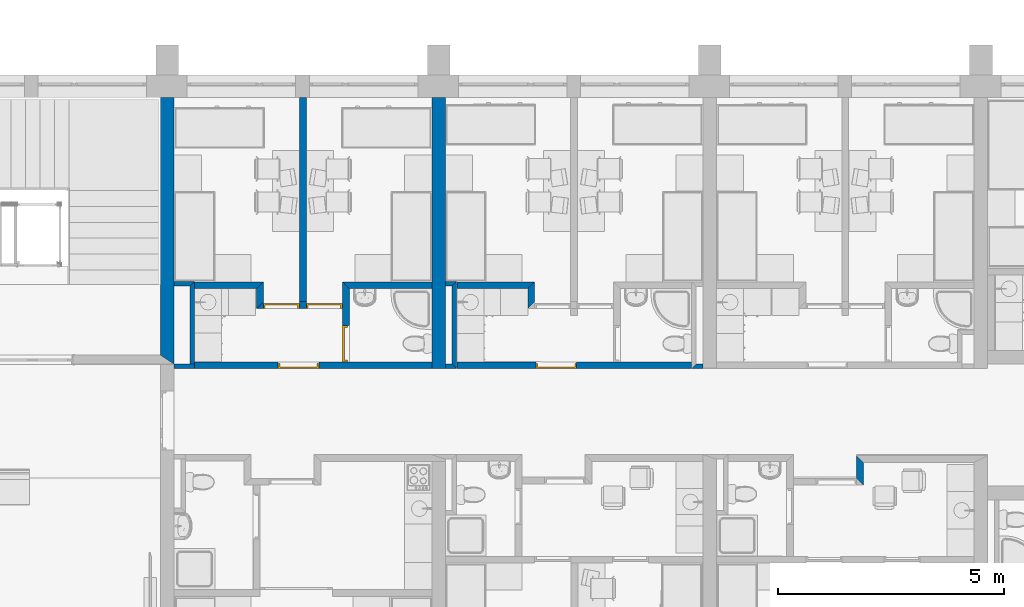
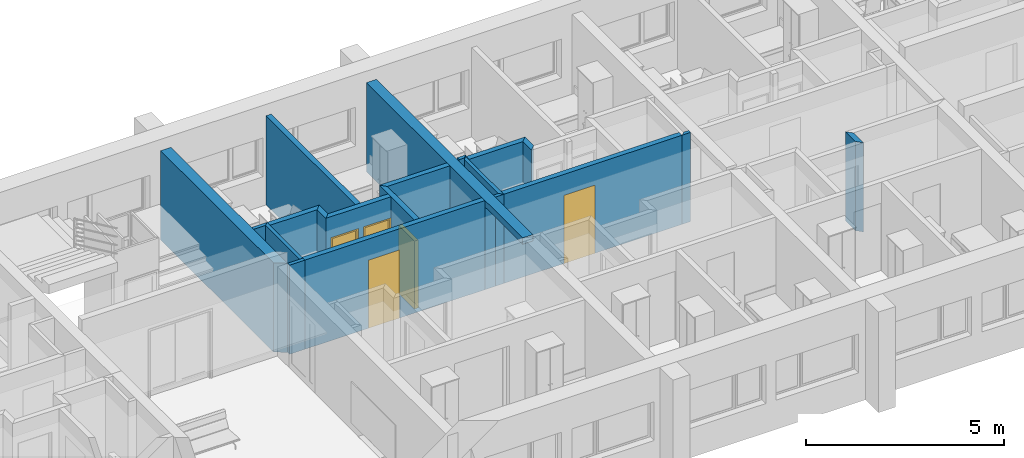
# One storey, part 16 of 172: 20 walls, 5 doors, 6 openings.
"""IFC2X3 building model written with IfcOpenShell, lengths in millimetres."""

from ifc_helpers import new_model, entity, si_unit, converted_unit, money_unit, direction, frame, origin_with_axes, place, context, subcontext, project, spatial, polyline, outline, extrude, faceted_brep, source, transform, mapped, material, material_list, layer, layer_set, layer_usage, type_object, element, fill, save


model = new_model("IFC2X3")

# Units and contexts
model_context = context("Model", 3, precision=1e-05, world=origin_with_axes(), true_north=direction((0.0, 1.0)))
body_context = subcontext(model_context, "Body", "Model", "MODEL_VIEW")
ifc_project = project(units=[si_unit("LENGTHUNIT", "METRE", prefix="MILLI"), si_unit("AREAUNIT", "SQUARE_METRE"), si_unit("VOLUMEUNIT", "CUBIC_METRE"), converted_unit("PLANEANGLEUNIT", "DEGREE", entity("IfcPlaneAngleMeasure", 0.0174532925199), si_unit("PLANEANGLEUNIT", "RADIAN"), dimensions=[0, 0, 0, 0, 0, 0, 0]), si_unit("SOLIDANGLEUNIT", "STERADIAN"), money_unit("USD"), converted_unit("TIMEUNIT", "Year", entity("IfcTimeMeasure", 31556926.0), si_unit("TIMEUNIT", "SECOND"), dimensions=[0, 0, 0, 0, 0, 0, 0]), si_unit("MASSUNIT", "GRAM"), si_unit("THERMODYNAMICTEMPERATUREUNIT", "DEGREE_CELSIUS"), si_unit("LUMINOUSINTENSITYUNIT", "LUMEN")], contexts=[model_context])

# Site, building, storey
site_placement = place(None, origin_with_axes())
site = spatial("IfcSite", under=ifc_project, at=site_placement, Name="Site", CompositionType="ELEMENT")
building_placement = place(site_placement, origin_with_axes())
building = spatial("IfcBuilding", under=site, at=building_placement, Name="Building", CompositionType="ELEMENT")
storey_placement = place(building_placement, frame((0.0, 0.0, 3200.0), z_axis=(0.0, 0.0, 1.0), x_axis=(1.0, 0.0, 0.0)))
storey = spatial("IfcBuildingStorey", under=building, at=storey_placement, Name="3KORRUS", CompositionType="ELEMENT", Elevation=3200.0)

# Wall
ifc_material_1 = material(Name="UmbKipsplaat")
ifc_layer_1 = layer(ifc_material_1, 13.0, ventilated="UNKNOWN")
ifc_layer_2 = layer(ifc_material_1, 13.0, ventilated="UNKNOWN")
ifc_material_2 = material(Name="SOOJUSTUS MINERAALVILL")
ifc_layer_3 = layer(ifc_material_2, 98.0, ventilated="UNKNOWN")
ifc_layer_4 = layer(ifc_material_1, 13.0, ventilated="UNKNOWN")
ifc_layer_5 = layer(ifc_material_1, 13.0, ventilated="UNKNOWN")
ifc_layer_set_1 = layer_set([ifc_layer_1, ifc_layer_2, ifc_layer_3, ifc_layer_4, ifc_layer_5], Name="kipssein150")
ifc_layer_usage_1 = layer_usage(ifc_layer_set_1, "AXIS2", "POSITIVE", -150.0)
wall_type_1 = type_object("IfcWallType", Name="kipssein150 150", PredefinedType="NOTDEFINED")
wall_1_placement = place(storey_placement, frame((9259.55735712, -13063.2398994, 0.0), z_axis=(0.0, 0.0, 1.0), x_axis=(0.0, -1.0, 0.0)))
element("IfcWallStandardCase", 1, at=wall_1_placement, inside=storey, type_object=wall_type_1, material=ifc_layer_usage_1, Name="SS1", ObjectType="SS1", context=body_context, shape_type="SweptSolid", body=[
    extrude(outline(polyline([(0.0, -150.0), (500.2125089, -150.0), (650.2125089, 0.0), (150.0, 0.0), (0.0, -150.0)])), origin_with_axes(), (0.0, 0.0, 1.0), 2750.0),
])

# Wall, opening, door
ifc_layer_usage_2 = layer_usage(ifc_layer_set_1, "AXIS2", "POSITIVE", 0.0)
wall_2_placement = place(storey_placement, frame((266.697734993, -11136.6041088, 0.0), z_axis=(0.0, 0.0, 1.0), x_axis=(1.0, 0.0, 0.0)))
wall_2 = element("IfcWallStandardCase", 2, at=wall_2_placement, inside=storey, type_object=wall_type_1, material=ifc_layer_usage_2, Name="SS1", ObjectType="SS1", context=body_context, shape_type="SweptSolid", body=[
    extrude(outline(polyline([(0.0, 0.0), (5193.00556169, 0.0), (5193.00556169, 150.0), (0.0, 150.0), (0.0, 0.0)])), origin_with_axes(), (0.0, 0.0, 1.0), 2750.0),
])
opening_1_placement = place(wall_2_placement, frame((2196.5587421, 0.0, 0.0), z_axis=(0.0, 0.0, 1.0), x_axis=(1.0, 0.0, 0.0)))
opening_1 = element("IfcOpeningElement", 3, at=opening_1_placement, cuts=wall_2, Name="SU2-6", context=body_context, shape_type="SweptSolid", body=[
    extrude(outline(polyline([(-450.0, -2100.0), (450.0, -2100.0), (450.0, 0.0), (-450.0, 0.0), (-450.0, -2100.0)])), frame((0.0, 150.0, 0.0), z_axis=(0.0, 1.0, 0.0), x_axis=(1.0, 0.0, 0.0)), (0.0, 0.0, -1.0), 450.0),
])
ifc_material_3 = material(Name="Background")
ifc_material_list = material_list([ifc_material_3])
door_style_1 = type_object("IfcDoorStyle", Name="Door 19", ConstructionType="NOTDEFINED", OperationType="SINGLE_SWING_LEFT", ParameterTakesPrecedence=False, Sizeable=False)
shared_shape_1 = source(origin_with_axes(), body_context, "Body", "Brep", [
    faceted_brep([(410.0, -40.0, 0.0), (410.0, -115.0, 0.0), (410.0, -115.0, 2060.0), (410.0, -40.0, 2060.0), (422.0, -40.0, 0.0), (422.0, 0.0, 0.0), (450.0, 0.0, 0.0), (450.0, -115.0, 0.0), (450.0, -115.0, 2060.0), (422.0, -40.0, 2060.0), (450.0, 0.0, 2060.0), (422.0, 0.0, 2060.0)], [[[0, 1, 2, 3]], [[4, 5, 6, 7, 1, 0]], [[2, 1, 7, 8]], [[9, 3, 2, 8, 10, 11]], [[9, 4, 0, 3]], [[11, 5, 4, 9]], [[11, 10, 6, 5]], [[7, 6, 10, 8]]]),
    faceted_brep([(-422.0, -40.0, 2060.0), (-422.0, 0.0, 2060.0), (-450.0, 0.0, 2060.0), (-450.0, -115.0, 2060.0), (-410.0, -115.0, 2060.0), (-410.0, -40.0, 2060.0), (-422.0, -40.0, 0.0), (-422.0, 0.0, 0.0), (-450.0, 0.0, 0.0), (-450.0, -115.0, 0.0), (-410.0, -115.0, 0.0), (-410.0, -40.0, 0.0)], [[[0, 1, 2, 3, 4, 5]], [[0, 6, 7, 1]], [[7, 8, 2, 1]], [[3, 2, 8, 9]], [[4, 3, 9, 10]], [[5, 4, 10, 11]], [[5, 11, 6, 0]], [[6, 11, 10, 9, 8, 7]]]),
    faceted_brep([(422.0, 0.0, 2072.0), (-422.0, 0.0, 2072.0), (-422.0, 0.0, 2060.0), (-450.0, 0.0, 2060.0), (-450.0, 0.0, 2100.0), (450.0, 0.0, 2100.0), (450.0, 0.0, 2060.0), (422.0, 0.0, 2060.0), (422.0, -40.0, 2072.0), (-422.0, -40.0, 2072.0), (-422.0, -40.0, 2060.0), (-410.0, -40.0, 2060.0), (-410.0, -115.0, 2060.0), (-450.0, -115.0, 2060.0), (-450.0, -115.0, 2100.0), (450.0, -115.0, 2100.0), (450.0, -115.0, 2060.0), (422.0, -40.0, 2060.0), (410.0, -115.0, 2060.0), (410.0, -40.0, 2060.0)], [[[0, 1, 2, 3, 4, 5, 6, 7]], [[0, 8, 9, 1]], [[1, 9, 10, 2]], [[10, 11, 12, 13, 3, 2]], [[14, 4, 3, 13]], [[15, 5, 4, 14]], [[16, 6, 5, 15]], [[17, 7, 6, 16, 18, 19]], [[7, 17, 8, 0]], [[10, 9, 8, 17, 19, 11]], [[19, 18, 12, 11]], [[13, 12, 18, 16, 15, 14]]]),
    faceted_brep([(-422.0, 0.0, 0.0), (422.0, 0.0, 0.0), (422.0, -40.0, 0.0), (-422.0, -40.0, 0.0), (-422.0, 0.0, 2072.0), (422.0, 0.0, 2072.0), (422.0, -40.0, 2072.0), (-422.0, -40.0, 2072.0)], [[[0, 1, 2, 3]], [[0, 4, 5, 1]], [[1, 5, 6, 2]], [[3, 2, 6, 7]], [[4, 0, 3, 7]], [[5, 4, 7, 6]]]),
])
door_1_placement = place(opening_1_placement, frame((450.0, 0.0, 0.0), z_axis=(0.0, 0.0, 1.0), x_axis=(-1.0, 0.0, 0.0)))
door_1 = element("IfcDoor", 4, at=door_1_placement, inside=storey, type_object=door_style_1, material=ifc_material_list, Name="SU2-6", ObjectType="Korteri välisuks", OverallHeight=2100.0, OverallWidth=900.0, context=body_context, shape_type="MappedRepresentation", body=[
    mapped(shared_shape_1, transform((450.0, 0.0, 0.0))),
])
fill(opening_1, door_1)

# Walls
ifc_layer_usage_3 = layer_usage(ifc_layer_set_1, "AXIS2", "POSITIVE", -150.0)
wall_3_placement = place(storey_placement, frame((1984.2564771, -9366.37850445, 0.0), z_axis=(0.0, 0.0, 1.0), x_axis=(0.0, -1.0, 0.0)))
element("IfcWallStandardCase", 5, at=wall_3_placement, inside=storey, type_object=wall_type_1, material=ifc_layer_usage_3, Name="SS1", ObjectType="SS1", context=body_context, shape_type="SweptSolid", body=[
    extrude(outline(polyline([(0.0, -150.0), (440.51563414, -150.0), (290.51563414, 0.0), (-150.0, 0.0), (0.0, -150.0)])), origin_with_axes(), (0.0, 0.0, 1.0), 2750.0),
])
ifc_layer_usage_4 = layer_usage(ifc_layer_set_1, "AXIS2", "POSITIVE", -150.0)
wall_4_placement = place(storey_placement, frame((1984.2564771, -9366.37850445, 0.0), z_axis=(0.0, 0.0, 1.0), x_axis=(-1.0, 0.0, 0.0)))
element("IfcWallStandardCase", 6, at=wall_4_placement, inside=storey, type_object=wall_type_1, material=ifc_layer_usage_4, Name="SS1", ObjectType="SS1", context=body_context, shape_type="SweptSolid", body=[
    extrude(outline(polyline([(0.0, -150.0), (1717.5587421, -150.0), (1717.5587421, 0.0), (150.0, 0.0), (0.0, -150.0)])), origin_with_axes(), (0.0, 0.0, 1.0), 2750.0),
])

# Wall, opening, door
ifc_layer_usage_5 = layer_usage(ifc_layer_set_1, "AXIS2", "POSITIVE", 0.0)
wall_5_placement = place(storey_placement, frame((-2265.29670331, -9367.37850445, 0.0), z_axis=(0.0, 0.0, 1.0), x_axis=(0.0, -1.0, 0.0)))
wall_5 = element("IfcWallStandardCase", 7, at=wall_5_placement, inside=storey, type_object=wall_type_1, material=ifc_layer_usage_5, Name="SS1", ObjectType="SS1", context=body_context, shape_type="SweptSolid", body=[
    extrude(outline(polyline([(-150.0, 0.0), (1619.22560435, 0.0), (1619.22560435, 150.0), (0.0, 150.0), (-150.0, 0.0)])), origin_with_axes(), (0.0, 0.0, 1.0), 2750.0),
])
opening_2_placement = place(wall_5_placement, frame((1219.22560435, 0.0, 0.0), z_axis=(0.0, 0.0, 1.0), x_axis=(1.0, 0.0, 0.0)))
opening_2 = element("IfcOpeningElement", 8, at=opening_2_placement, cuts=wall_5, Name="SU3-3", context=body_context, shape_type="SweptSolid", body=[
    extrude(outline(polyline([(-400.0, -2100.0), (400.0, -2100.0), (400.0, 0.0), (-400.0, 0.0), (-400.0, -2100.0)])), frame((0.0, 150.0, 0.0), z_axis=(0.0, 1.0, 0.0), x_axis=(1.0, 0.0, 0.0)), (0.0, 0.0, -1.0), 450.0),
])
shared_shape_2 = source(origin_with_axes(), body_context, "Body", "Brep", [
    faceted_brep([(360.0, -40.0, 0.0), (360.0, -115.0, 0.0), (360.0, -115.0, 2060.0), (360.0, -40.0, 2060.0), (372.0, -40.0, 0.0), (372.0, 0.0, 0.0), (400.0, 0.0, 0.0), (400.0, -115.0, 0.0), (400.0, -115.0, 2060.0), (372.0, -40.0, 2060.0), (400.0, 0.0, 2060.0), (372.0, 0.0, 2060.0)], [[[0, 1, 2, 3]], [[4, 5, 6, 7, 1, 0]], [[2, 1, 7, 8]], [[9, 3, 2, 8, 10, 11]], [[9, 4, 0, 3]], [[11, 5, 4, 9]], [[11, 10, 6, 5]], [[7, 6, 10, 8]]]),
    faceted_brep([(-372.0, -40.0, 2060.0), (-372.0, 0.0, 2060.0), (-400.0, 0.0, 2060.0), (-400.0, -115.0, 2060.0), (-360.0, -115.0, 2060.0), (-360.0, -40.0, 2060.0), (-372.0, -40.0, 0.0), (-372.0, 0.0, 0.0), (-400.0, 0.0, 0.0), (-400.0, -115.0, 0.0), (-360.0, -115.0, 0.0), (-360.0, -40.0, 0.0)], [[[0, 1, 2, 3, 4, 5]], [[0, 6, 7, 1]], [[7, 8, 2, 1]], [[3, 2, 8, 9]], [[4, 3, 9, 10]], [[5, 4, 10, 11]], [[5, 11, 6, 0]], [[6, 11, 10, 9, 8, 7]]]),
    faceted_brep([(372.0, 0.0, 2072.0), (-372.0, 0.0, 2072.0), (-372.0, 0.0, 2060.0), (-400.0, 0.0, 2060.0), (-400.0, 0.0, 2100.0), (400.0, 0.0, 2100.0), (400.0, 0.0, 2060.0), (372.0, 0.0, 2060.0), (372.0, -40.0, 2072.0), (-372.0, -40.0, 2072.0), (-372.0, -40.0, 2060.0), (-360.0, -40.0, 2060.0), (-360.0, -115.0, 2060.0), (-400.0, -115.0, 2060.0), (-400.0, -115.0, 2100.0), (400.0, -115.0, 2100.0), (400.0, -115.0, 2060.0), (372.0, -40.0, 2060.0), (360.0, -115.0, 2060.0), (360.0, -40.0, 2060.0)], [[[0, 1, 2, 3, 4, 5, 6, 7]], [[0, 8, 9, 1]], [[1, 9, 10, 2]], [[10, 11, 12, 13, 3, 2]], [[14, 4, 3, 13]], [[15, 5, 4, 14]], [[16, 6, 5, 15]], [[17, 7, 6, 16, 18, 19]], [[7, 17, 8, 0]], [[10, 9, 8, 17, 19, 11]], [[19, 18, 12, 11]], [[13, 12, 18, 16, 15, 14]]]),
    faceted_brep([(-372.0, 0.0, 0.0), (372.0, 0.0, 0.0), (372.0, -40.0, 0.0), (-372.0, -40.0, 0.0), (-372.0, 0.0, 2072.0), (372.0, 0.0, 2072.0), (372.0, -40.0, 2072.0), (-372.0, -40.0, 2072.0)], [[[0, 1, 2, 3]], [[0, 4, 5, 1]], [[1, 5, 6, 2]], [[3, 2, 6, 7]], [[4, 0, 3, 7]], [[5, 4, 7, 6]]]),
])
door_2_placement = place(opening_2_placement, frame((400.0, 0.0, 0.0), z_axis=(0.0, 0.0, 1.0), x_axis=(-1.0, 0.0, 0.0)))
door_2 = element("IfcDoor", 9, at=door_2_placement, inside=storey, type_object=door_style_1, material=ifc_material_list, Name="SU3-3", ObjectType="WC-uks", OverallHeight=2100.0, OverallWidth=800.0, context=body_context, shape_type="MappedRepresentation", body=[
    mapped(shared_shape_2, transform((400.0, 0.0, 0.0))),
])
fill(opening_2, door_2)

# Wall, openings, doors
ifc_layer_usage_6 = layer_usage(ifc_layer_set_1, "AXIS2", "POSITIVE", 0.0)
wall_6_placement = place(storey_placement, frame((-4015.7435229, -9806.89413859, 0.0), z_axis=(0.0, 0.0, 1.0), x_axis=(1.0, 0.0, 0.0)))
wall_6 = element("IfcWallStandardCase", 10, at=wall_6_placement, inside=storey, type_object=wall_type_1, material=ifc_layer_usage_6, Name="SS1", ObjectType="SS1", context=body_context, shape_type="SweptSolid", body=[
    extrude(outline(polyline([(-150.0, 0.0), (1750.44681959, 0.0), (1750.44681959, 150.0), (0.0, 150.0), (-150.0, 0.0)])), origin_with_axes(), (0.0, 0.0, 1.0), 2750.0),
])
opening_3_placement = place(wall_6_placement, frame((1350.0, 0.0, 0.0), z_axis=(0.0, 0.0, 1.0), x_axis=(1.0, 0.0, 0.0)))
opening_3 = element("IfcOpeningElement", 11, at=opening_3_placement, cuts=wall_6, Name="SU3-5", context=body_context, shape_type="SweptSolid", body=[
    extrude(outline(polyline([(-400.0, 0.0), (400.0, 0.0), (400.0, 2100.0), (-400.0, 2100.0), (-400.0, 0.0)])), frame((0.0, 150.0, 0.0), z_axis=(0.0, 1.0, 0.0), x_axis=(-1.0, 0.0, 0.0)), (0.0, 0.0, -1.0), 450.0),
])
opening_4_placement = place(wall_6_placement, frame((400.0, 0.0, 0.0), z_axis=(0.0, 0.0, 1.0), x_axis=(1.0, 0.0, 0.0)))
opening_4 = element("IfcOpeningElement", 12, at=opening_4_placement, cuts=wall_6, Name="SU3-4", context=body_context, shape_type="SweptSolid", body=[
    extrude(outline(polyline([(-400.0, 0.0), (400.0, 0.0), (400.0, 2100.0), (-400.0, 2100.0), (-400.0, 0.0)])), frame((0.0, 150.0, 0.0), z_axis=(0.0, -1.0, 0.0), x_axis=(1.0, 0.0, 0.0)), (0.0, 0.0, 1.0), 450.0),
])
door_style_2 = type_object("IfcDoorStyle", Name="Door 19", ConstructionType="NOTDEFINED", OperationType="SINGLE_SWING_LEFT", ParameterTakesPrecedence=False, Sizeable=False)
shared_shape_3 = source(origin_with_axes(), body_context, "Body", "Brep", [
    faceted_brep([(360.0, -75.0, 0.0), (360.0, -150.0, 0.0), (360.0, -150.0, 2060.0), (360.0, -75.0, 2060.0), (372.0, -75.0, 0.0), (372.0, -35.0, 0.0), (400.0, -35.0, 0.0), (400.0, -150.0, 0.0), (400.0, -150.0, 2060.0), (372.0, -75.0, 2060.0), (400.0, -35.0, 2060.0), (372.0, -35.0, 2060.0)], [[[0, 1, 2, 3]], [[4, 5, 6, 7, 1, 0]], [[2, 1, 7, 8]], [[9, 3, 2, 8, 10, 11]], [[9, 4, 0, 3]], [[11, 5, 4, 9]], [[11, 10, 6, 5]], [[7, 6, 10, 8]]]),
    faceted_brep([(-372.0, -75.0, 2060.0), (-372.0, -35.0, 2060.0), (-400.0, -35.0, 2060.0), (-400.0, -150.0, 2060.0), (-360.0, -150.0, 2060.0), (-360.0, -75.0, 2060.0), (-372.0, -75.0, 0.0), (-372.0, -35.0, 0.0), (-400.0, -35.0, 0.0), (-400.0, -150.0, 0.0), (-360.0, -150.0, 0.0), (-360.0, -75.0, 0.0)], [[[0, 1, 2, 3, 4, 5]], [[0, 6, 7, 1]], [[7, 8, 2, 1]], [[3, 2, 8, 9]], [[4, 3, 9, 10]], [[5, 4, 10, 11]], [[5, 11, 6, 0]], [[6, 11, 10, 9, 8, 7]]]),
    faceted_brep([(372.0, -35.0, 2072.0), (-372.0, -35.0, 2072.0), (-372.0, -35.0, 2060.0), (-400.0, -35.0, 2060.0), (-400.0, -35.0, 2100.0), (400.0, -35.0, 2100.0), (400.0, -35.0, 2060.0), (372.0, -35.0, 2060.0), (372.0, -75.0, 2072.0), (-372.0, -75.0, 2072.0), (-372.0, -75.0, 2060.0), (-360.0, -75.0, 2060.0), (-360.0, -150.0, 2060.0), (-400.0, -150.0, 2060.0), (-400.0, -150.0, 2100.0), (400.0, -150.0, 2100.0), (400.0, -150.0, 2060.0), (372.0, -75.0, 2060.0), (360.0, -150.0, 2060.0), (360.0, -75.0, 2060.0)], [[[0, 1, 2, 3, 4, 5, 6, 7]], [[0, 8, 9, 1]], [[1, 9, 10, 2]], [[10, 11, 12, 13, 3, 2]], [[14, 4, 3, 13]], [[15, 5, 4, 14]], [[16, 6, 5, 15]], [[17, 7, 6, 16, 18, 19]], [[7, 17, 8, 0]], [[10, 9, 8, 17, 19, 11]], [[19, 18, 12, 11]], [[13, 12, 18, 16, 15, 14]]]),
    faceted_brep([(-372.0, -35.0, 0.0), (372.0, -35.0, 0.0), (372.0, -75.0, 0.0), (-372.0, -75.0, 0.0), (-372.0, -35.0, 2072.0), (372.0, -35.0, 2072.0), (372.0, -75.0, 2072.0), (-372.0, -75.0, 2072.0)], [[[0, 1, 2, 3]], [[0, 4, 5, 1]], [[1, 5, 6, 2]], [[3, 2, 6, 7]], [[4, 0, 3, 7]], [[5, 4, 7, 6]]]),
])
door_3_placement = place(opening_3_placement, frame((-400.0, 0.0, 0.0), z_axis=(0.0, 0.0, 1.0), x_axis=(1.0, 0.0, 0.0)))
door_3 = element("IfcDoor", 13, at=door_3_placement, inside=storey, type_object=door_style_2, material=ifc_material_list, Name="SU3-5", ObjectType="Toa uks", OverallHeight=2100.0, OverallWidth=800.0, context=body_context, shape_type="MappedRepresentation", body=[
    mapped(shared_shape_3, transform((400.0, 150.0, 0.0))),
])
fill(opening_3, door_3)
door_style_3 = type_object("IfcDoorStyle", Name="Door 19", ConstructionType="NOTDEFINED", OperationType="SINGLE_SWING_RIGHT", ParameterTakesPrecedence=False, Sizeable=False)
shared_shape_4 = source(origin_with_axes(), body_context, "Body", "Brep", [
    faceted_brep([(-360.0, -75.0, 0.0), (-360.0, -75.0, 2060.0), (-360.0, -150.0, 2060.0), (-360.0, -150.0, 0.0), (-372.0, -75.0, 2060.0), (-372.0, -75.0, 0.0), (-372.0, -35.0, 2060.0), (-400.0, -35.0, 2060.0), (-400.0, -150.0, 2060.0), (-400.0, -150.0, 0.0), (-400.0, -35.0, 0.0), (-372.0, -35.0, 0.0)], [[[0, 1, 2, 3]], [[4, 1, 0, 5]], [[4, 6, 7, 8, 2, 1]], [[2, 8, 9, 3]], [[5, 0, 3, 9, 10, 11]], [[6, 4, 5, 11]], [[6, 11, 10, 7]], [[9, 8, 7, 10]]]),
    faceted_brep([(372.0, -75.0, 2060.0), (360.0, -75.0, 2060.0), (360.0, -150.0, 2060.0), (400.0, -150.0, 2060.0), (400.0, -35.0, 2060.0), (372.0, -35.0, 2060.0), (372.0, -75.0, 0.0), (360.0, -75.0, 0.0), (360.0, -150.0, 0.0), (400.0, -150.0, 0.0), (400.0, -35.0, 0.0), (372.0, -35.0, 0.0)], [[[0, 1, 2, 3, 4, 5]], [[1, 0, 6, 7]], [[1, 7, 8, 2]], [[2, 8, 9, 3]], [[3, 9, 10, 4]], [[11, 5, 4, 10]], [[0, 5, 11, 6]], [[6, 11, 10, 9, 8, 7]]]),
    faceted_brep([(-372.0, -35.0, 2072.0), (-372.0, -35.0, 2060.0), (-400.0, -35.0, 2060.0), (-400.0, -35.0, 2100.0), (400.0, -35.0, 2100.0), (400.0, -35.0, 2060.0), (372.0, -35.0, 2060.0), (372.0, -35.0, 2072.0), (-372.0, -75.0, 2072.0), (-372.0, -75.0, 2060.0), (-360.0, -75.0, 2060.0), (-360.0, -150.0, 2060.0), (-400.0, -150.0, 2060.0), (-400.0, -150.0, 2100.0), (400.0, -150.0, 2100.0), (400.0, -150.0, 2060.0), (372.0, -75.0, 2060.0), (360.0, -150.0, 2060.0), (360.0, -75.0, 2060.0), (372.0, -75.0, 2072.0)], [[[0, 1, 2, 3, 4, 5, 6, 7]], [[1, 0, 8, 9]], [[9, 10, 11, 12, 2, 1]], [[12, 13, 3, 2]], [[13, 14, 4, 3]], [[14, 15, 5, 4]], [[16, 6, 5, 15, 17, 18]], [[7, 6, 16, 19]], [[0, 7, 19, 8]], [[16, 18, 10, 9, 8, 19]], [[10, 18, 17, 11]], [[15, 14, 13, 12, 11, 17]]]),
    faceted_brep([(372.0, -35.0, 0.0), (372.0, -75.0, 0.0), (-372.0, -75.0, 0.0), (-372.0, -35.0, 0.0), (372.0, -35.0, 2072.0), (372.0, -75.0, 2072.0), (-372.0, -75.0, 2072.0), (-372.0, -35.0, 2072.0)], [[[0, 1, 2, 3]], [[4, 5, 1, 0]], [[1, 5, 6, 2]], [[3, 2, 6, 7]], [[0, 3, 7, 4]], [[7, 6, 5, 4]]]),
])
door_4_placement = place(opening_4_placement, frame((-400.0, 0.0, 0.0), z_axis=(0.0, 0.0, 1.0), x_axis=(1.0, 0.0, 0.0)))
door_4 = element("IfcDoor", 14, at=door_4_placement, inside=storey, type_object=door_style_3, material=ifc_material_list, Name="SU3-4", ObjectType="Toa uks", OverallHeight=2100.0, OverallWidth=800.0, context=body_context, shape_type="MappedRepresentation", body=[
    mapped(shared_shape_4, transform((400.0, 150.0, 0.0))),
])
fill(opening_4, door_4)

# Walls
ifc_layer_usage_7 = layer_usage(ifc_layer_set_1, "AXIS2", "POSITIVE", 0.0)
wall_7_placement = place(storey_placement, frame((-3215.7435229, -5039.6041088, 0.0), z_axis=(0.0, 0.0, 1.0), x_axis=(0.0, -1.0, 0.0)))
element("IfcWallStandardCase", 15, at=wall_7_placement, inside=storey, type_object=wall_type_1, material=ifc_layer_usage_7, Name="SS1", ObjectType="SS1", context=body_context, shape_type="SweptSolid", body=[
    extrude(outline(polyline([(100.0, 0.0), (4617.29002979, 0.0), (4617.29002979, 150.0), (100.0, 150.0), (100.0, 0.0)])), origin_with_axes(), (0.0, 0.0, 1.0), 2750.0),
])
ifc_layer_usage_8 = layer_usage(ifc_layer_set_1, "AXIS2", "POSITIVE", -150.0)
wall_8_placement = place(storey_placement, frame((-4015.7435229, -9366.37850445, 0.0), z_axis=(0.0, 0.0, 1.0), x_axis=(-1.0, 0.0, 0.0)))
element("IfcWallStandardCase", 16, at=wall_8_placement, inside=storey, type_object=wall_type_1, material=ifc_layer_usage_8, Name="SS1", ObjectType="SS1", context=body_context, shape_type="SweptSolid", body=[
    extrude(outline(polyline([(0.0, -150.0), (1524.55874211, -150.0), (1524.55874211, 0.0), (150.0, 0.0), (0.0, -150.0)])), origin_with_axes(), (0.0, 0.0, 1.0), 2750.0),
])
ifc_layer_usage_9 = layer_usage(ifc_layer_set_1, "AXIS2", "POSITIVE", 0.0)
wall_9_placement = place(storey_placement, frame((-2265.29670331, -9367.37850445, 0.0), z_axis=(0.0, 0.0, 1.0), x_axis=(1.0, 0.0, 0.0)))
element("IfcWallStandardCase", 17, at=wall_9_placement, inside=storey, type_object=wall_type_1, material=ifc_layer_usage_9, Name="SS1", ObjectType="SS1", context=body_context, shape_type="SweptSolid", body=[
    extrude(outline(polyline([(150.0, 0.0), (1975.0, 0.0), (1975.0, 150.0), (0.0, 150.0), (150.0, 0.0)])), origin_with_axes(), (0.0, 0.0, 1.0), 2750.0),
])
ifc_layer_usage_10 = layer_usage(ifc_layer_set_1, "AXIS2", "POSITIVE", -150.0)
wall_10_placement = place(storey_placement, frame((-4015.7435229, -9366.37850445, 0.0), z_axis=(0.0, 0.0, 1.0), x_axis=(0.0, -1.0, 0.0)))
element("IfcWallStandardCase", 18, at=wall_10_placement, inside=storey, type_object=wall_type_1, material=ifc_layer_usage_10, Name="SS1", ObjectType="SS1", context=body_context, shape_type="SweptSolid", body=[
    extrude(outline(polyline([(0.0, -150.0), (440.51563414, -150.0), (290.51563414, 0.0), (-150.0, 0.0), (0.0, -150.0)])), origin_with_axes(), (0.0, 0.0, 1.0), 2750.0),
])

# Wall, opening, door
ifc_layer_usage_11 = layer_usage(ifc_layer_set_1, "AXIS2", "POSITIVE", 0.0)
wall_11_placement = place(storey_placement, frame((-5540.30226501, -11136.6041088, 0.0), z_axis=(0.0, 0.0, 1.0), x_axis=(1.0, 0.0, 0.0)))
wall_11 = element("IfcWallStandardCase", 19, at=wall_11_placement, inside=storey, type_object=wall_type_1, material=ifc_layer_usage_11, Name="SS1", ObjectType="SS1", context=body_context, shape_type="SweptSolid", body=[
    extrude(outline(polyline([(0.0, 0.0), (5250.00556169, 0.0), (5250.00556169, 150.0), (0.0, 150.0), (0.0, 0.0)])), origin_with_axes(), (0.0, 0.0, 1.0), 2750.0),
])
opening_5_placement = place(wall_11_placement, frame((2299.5587421, 0.0, 0.0), z_axis=(0.0, 0.0, 1.0), x_axis=(1.0, 0.0, 0.0)))
opening_5 = element("IfcOpeningElement", 20, at=opening_5_placement, cuts=wall_11, Name="SU2-6", context=body_context, shape_type="SweptSolid", body=[
    extrude(outline(polyline([(-450.0, -2100.0), (450.0, -2100.0), (450.0, 0.0), (-450.0, 0.0), (-450.0, -2100.0)])), frame((0.0, 150.0, 0.0), z_axis=(0.0, 1.0, 0.0), x_axis=(1.0, 0.0, 0.0)), (0.0, 0.0, -1.0), 450.0),
])
door_5_placement = place(opening_5_placement, frame((450.0, 0.0, 0.0), z_axis=(0.0, 0.0, 1.0), x_axis=(-1.0, 0.0, 0.0)))
door_5 = element("IfcDoor", 21, at=door_5_placement, inside=storey, type_object=door_style_1, material=ifc_material_list, Name="SU2-6", ObjectType="Korteri välisuks", OverallHeight=2100.0, OverallWidth=900.0, context=body_context, shape_type="MappedRepresentation", body=[
    mapped(shared_shape_1, transform((450.0, 0.0, 0.0))),
])
fill(opening_5, door_5)

# Wall
ifc_material_4 = material(Name="Olemasolevad seinad tellis, uus viimistlus")
ifc_layer_6 = layer(ifc_material_4, 300.0, ventilated="UNKNOWN")
ifc_layer_set_2 = layer_set([ifc_layer_6], Name="Olemasolevad seinad tellis, uus viimistlus  300")
ifc_layer_usage_12 = layer_usage(ifc_layer_set_2, "AXIS2", "POSITIVE", 0.0)
wall_type_2 = type_object("IfcWallType", Name="Olemasolevad seinad tellis, uus viimistlus  300", PredefinedType="NOTDEFINED")
wall_12_placement = place(storey_placement, frame((-5990.29670331, -11039.6041088, 0.0), z_axis=(0.0, 0.0, 1.0), x_axis=(0.0, 1.0, 0.0)))
element("IfcWallStandardCase", 22, at=wall_12_placement, inside=storey, type_object=wall_type_2, material=ifc_layer_usage_12, Name="KS1", ObjectType="KS1", context=body_context, shape_type="SweptSolid", body=[
    extrude(outline(polyline([(0.0, 0.0), (5900.0, 0.0), (5900.0, 300.0), (200.0, 300.0), (0.0, 0.0)])), origin_with_axes(), (0.0, 0.0, 1.0), 2750.0),
])

# Wall, opening
ifc_layer_usage_13 = layer_usage(ifc_layer_set_2, "AXIS2", "POSITIVE", 0.0)
wall_13_placement = place(storey_placement, frame((9.70329668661, -13039.3705726, 0.0), z_axis=(0.0, 0.0, 1.0), x_axis=(0.0, 1.0, 0.0)))
wall_13 = element("IfcWallStandardCase", 23, at=wall_13_placement, inside=storey, type_object=wall_type_2, material=ifc_layer_usage_13, Name="KS1", ObjectType="KS1", context=body_context, shape_type="SweptSolid", body=[
    extrude(outline(polyline([(0.0, 0.0), (7899.7664638, 0.0), (7899.7664638, 300.0), (0.0, 300.0), (0.0, 0.0)])), origin_with_axes(), (0.0, 0.0, 1.0), 2750.0),
])
opening_6_placement = place(wall_13_placement, frame((950.342039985, 0.0, 0.0), z_axis=(0.0, 0.0, 1.0), x_axis=(1.0, 0.0, 0.0)))
element("IfcOpeningElement", 24, at=opening_6_placement, cuts=wall_13, Name="DOO - 001", context=body_context, shape_type="SweptSolid", body=[
    extrude(outline(polyline([(-952.424, 2550.0), (-952.424, 0.0), (952.424, 0.0), (952.424, 2550.0), (-952.424, 2550.0)])), frame((0.0, 0.0, 0.0), z_axis=(0.0, -1.0, 0.0), x_axis=(1.0, 0.0, 0.0)), (0.0, 0.0, 1.0), 300.0),
    extrude(outline(polyline([(-952.424, 0.0), (-952.424, -2550.0), (952.424, -2550.0), (952.424, 0.0), (-952.424, 0.0)])), frame((0.0, 0.0, 0.0), z_axis=(0.0, 1.0, 0.0), x_axis=(1.0, 0.0, 0.0)), (0.0, 0.0, 1.0), 300.0),
])

# Walls
ifc_material_5 = material(Name="krohv")
ifc_layer_7 = layer(ifc_material_5, 2.0, ventilated="UNKNOWN")
ifc_layer_8 = layer(ifc_material_5, 10.0, ventilated="UNKNOWN")
ifc_material_6 = material(Name="Kergplokk")
ifc_layer_9 = layer(ifc_material_6, 76.0, ventilated="UNKNOWN")
ifc_layer_10 = layer(ifc_material_5, 10.0, ventilated="UNKNOWN")
ifc_layer_11 = layer(ifc_material_5, 2.0, ventilated="UNKNOWN")
ifc_layer_set_3 = layer_set([ifc_layer_7, ifc_layer_8, ifc_layer_9, ifc_layer_10, ifc_layer_11], Name="Kergplokk Bauroc 100")
ifc_layer_usage_14 = layer_usage(ifc_layer_set_3, "AXIS2", "POSITIVE", -100.0)
wall_type_3 = type_object("IfcWallType", Name="Kergplokk Bauroc 100 100", PredefinedType="NOTDEFINED")
wall_14_placement = place(storey_placement, frame((5559.70329669, -11036.6041535, 0.0), z_axis=(0.0, 0.0, 1.0), x_axis=(1.0, 0.0, 0.0)))
element("IfcWallStandardCase", 25, at=wall_14_placement, inside=storey, type_object=wall_type_3, material=ifc_layer_usage_14, Name="SS2", ObjectType="SAHTISEIN", context=body_context, shape_type="SweptSolid", body=[
    extrude(outline(polyline([(-100.0, -100.0), (150.0, -100.0), (150.0, 0.0), (0.0, 0.0), (-100.0, -100.0)])), origin_with_axes(), (0.0, 0.0, 1.0), 2750.0),
])
ifc_layer_usage_15 = layer_usage(ifc_layer_set_3, "AXIS2", "POSITIVE", 0.0)
wall_15_placement = place(storey_placement, frame((259.697734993, -11036.6041535, 0.0), z_axis=(0.0, 0.0, 1.0), x_axis=(0.0, 1.0, 0.0)))
element("IfcWallStandardCase", 26, at=wall_15_placement, inside=storey, type_object=wall_type_3, material=ifc_layer_usage_15, Name="SS2", ObjectType="SAHTISEIN", context=body_context, shape_type="SweptSolid", body=[
    extrude(outline(polyline([(-100.0, 0.0), (1823.29859225, 0.0), (1723.29859225, 100.0), (0.0, 100.0), (-100.0, 0.0)])), origin_with_axes(), (0.0, 0.0, 1.0), 2750.0),
])
ifc_layer_usage_16 = layer_usage(ifc_layer_set_3, "AXIS2", "POSITIVE", -100.0)
wall_16_placement = place(storey_placement, frame((9.70329668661, -9213.30556125, 0.0), z_axis=(0.0, 0.0, 1.0), x_axis=(1.0, 0.0, 0.0)))
element("IfcWallStandardCase", 27, at=wall_16_placement, inside=storey, type_object=wall_type_3, material=ifc_layer_usage_16, Name="SS2", ObjectType="SAHTISEIN", context=body_context, shape_type="SweptSolid", body=[
    extrude(outline(polyline([(0.0, -100.0), (149.994438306, -100.0), (249.994438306, 0.0), (0.0, 0.0), (0.0, -100.0)])), origin_with_axes(), (0.0, 0.0, 1.0), 2800.0),
])
ifc_layer_usage_17 = layer_usage(ifc_layer_set_3, "AXIS2", "POSITIVE", 0.0)
wall_17_placement = place(storey_placement, frame((-5540.30226501, -9213.30556125, 0.0), z_axis=(0.0, 0.0, 1.0), x_axis=(-1.0, 0.0, 0.0)))
element("IfcWallStandardCase", 28, at=wall_17_placement, inside=storey, type_object=wall_type_3, material=ifc_layer_usage_17, Name="SS2", ObjectType="SS2", context=body_context, shape_type="SweptSolid", body=[
    extrude(outline(polyline([(0.0, 0.0), (449.9944383, 0.0), (449.9944383, 100.0), (100.0, 100.0), (0.0, 0.0)])), origin_with_axes(), (0.0, 0.0, 1.0), 2750.0),
])
ifc_layer_usage_18 = layer_usage(ifc_layer_set_3, "AXIS2", "POSITIVE", -100.0)
wall_18_placement = place(storey_placement, frame((9.70329668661, -11036.6041535, 0.0), z_axis=(0.0, 0.0, 1.0), x_axis=(1.0, 0.0, 0.0)))
element("IfcWallStandardCase", 29, at=wall_18_placement, inside=storey, type_object=wall_type_3, material=ifc_layer_usage_18, Name="SS2", ObjectType="SAHTISEIN", context=body_context, shape_type="SweptSolid", body=[
    extrude(outline(polyline([(0.0, -100.0), (249.994438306, -100.0), (149.994438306, 0.0), (0.0, 0.0), (0.0, -100.0)])), origin_with_axes(), (0.0, 0.0, 1.0), 2750.0),
])
ifc_layer_usage_19 = layer_usage(ifc_layer_set_3, "AXIS2", "POSITIVE", -100.0)
wall_19_placement = place(storey_placement, frame((-5540.30226501, -11136.6041088, 0.0), z_axis=(0.0, 0.0, 1.0), x_axis=(-1.0, 0.0, 0.0)))
element("IfcWallStandardCase", 30, at=wall_19_placement, inside=storey, type_object=wall_type_3, material=ifc_layer_usage_19, Name="SS2", ObjectType="SS2", context=body_context, shape_type="SweptSolid", body=[
    extrude(outline(polyline([(0.0, -100.0), (449.9944383, -100.0), (449.9944383, 0.0), (0.0, 0.0), (0.0, -100.0)])), origin_with_axes(), (0.0, 0.0, 1.0), 2750.0),
])
ifc_layer_usage_20 = layer_usage(ifc_layer_set_3, "AXIS2", "POSITIVE", 0.0)
wall_20_placement = place(storey_placement, frame((-5540.30226501, -11136.6041088, 0.0), z_axis=(0.0, 0.0, 1.0), x_axis=(0.0, 1.0, 0.0)))
element("IfcWallStandardCase", 31, at=wall_20_placement, inside=storey, type_object=wall_type_3, material=ifc_layer_usage_20, Name="SS2", ObjectType="SS2", context=body_context, shape_type="SweptSolid", body=[
    extrude(outline(polyline([(100.0, 0.0), (1923.29854755, 0.0), (1823.29854755, 100.0), (100.0, 100.0), (100.0, 0.0)])), origin_with_axes(), (0.0, 0.0, 1.0), 2750.0),
])

save(model, "model.ifc")
